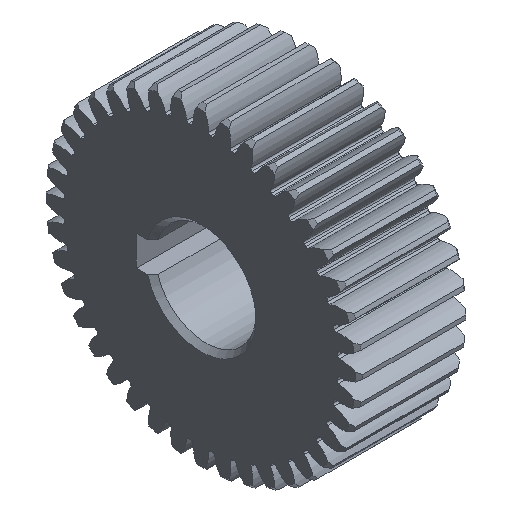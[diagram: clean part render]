
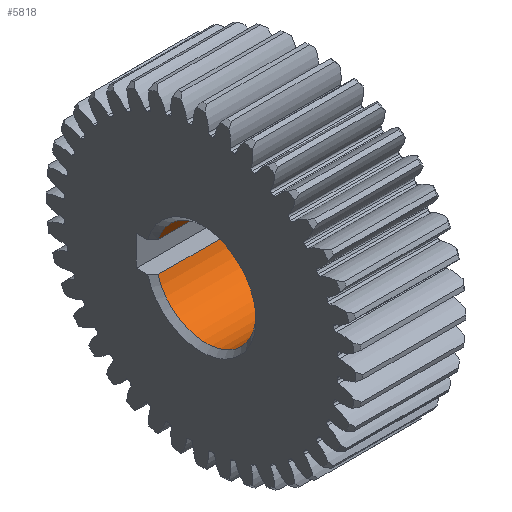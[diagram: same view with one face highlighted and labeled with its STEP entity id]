
A CAD part, isometric view. The second image highlights one B-rep face of the part: STEP entity #5818.
In plain terms, the highlighted cylindrical face has radius 10 mm (diameter 20 mm), a partial arc.
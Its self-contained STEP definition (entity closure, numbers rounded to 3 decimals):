
#182=LINE('',#9112,#432);
#183=LINE('',#9115,#433);
#432=VECTOR('',#7070,10.);
#433=VECTOR('',#7073,10.);
#682=CYLINDRICAL_SURFACE('',#6171,10.);
#924=FACE_OUTER_BOUND('',#1252,.T.);
#1252=EDGE_LOOP('',(#3783,#3784,#3785,#3786));
#1582=CIRCLE('',#6170,10.);
#1583=CIRCLE('',#6172,10.);
#2149=VERTEX_POINT('',#9098);
#2152=VERTEX_POINT('',#9105);
#2153=VERTEX_POINT('',#9111);
#2154=VERTEX_POINT('',#9113);
#2804=EDGE_CURVE('',#2152,#2149,#1582,.T.);
#2805=EDGE_CURVE('',#2152,#2153,#182,.T.);
#2806=EDGE_CURVE('',#2154,#2153,#1583,.T.);
#2807=EDGE_CURVE('',#2149,#2154,#183,.T.);
#3783=ORIENTED_EDGE('',*,*,#2804,.F.);
#3784=ORIENTED_EDGE('',*,*,#2805,.T.);
#3785=ORIENTED_EDGE('',*,*,#2806,.F.);
#3786=ORIENTED_EDGE('',*,*,#2807,.F.);
#5818=ADVANCED_FACE('',(#924),#682,.F.);
#6170=AXIS2_PLACEMENT_3D('',#9109,#7066,#7067);
#6171=AXIS2_PLACEMENT_3D('',#9110,#7068,#7069);
#6172=AXIS2_PLACEMENT_3D('',#9114,#7071,#7072);
#7066=DIRECTION('center_axis',(1.,0.,0.));
#7067=DIRECTION('ref_axis',(0.,-0.954,-0.3));
#7068=DIRECTION('center_axis',(1.,0.,0.));
#7069=DIRECTION('ref_axis',(0.,-0.954,-0.3));
#7070=DIRECTION('',(1.,0.,0.));
#7071=DIRECTION('center_axis',(-1.,0.,0.));
#7072=DIRECTION('ref_axis',(0.,-0.954,-0.3));
#7073=DIRECTION('',(1.,0.,0.));
#9098=CARTESIAN_POINT('',(-10.,9.539,-3.));
#9105=CARTESIAN_POINT('',(-10.,9.539,3.));
#9109=CARTESIAN_POINT('Origin',(-10.,0.,0.));
#9110=CARTESIAN_POINT('Origin',(0.,0.,0.));
#9111=CARTESIAN_POINT('',(10.,9.539,3.));
#9112=CARTESIAN_POINT('',(0.,9.539,3.));
#9113=CARTESIAN_POINT('',(10.,9.539,-3.));
#9114=CARTESIAN_POINT('Origin',(10.,0.,0.));
#9115=CARTESIAN_POINT('',(0.,9.539,-3.));
